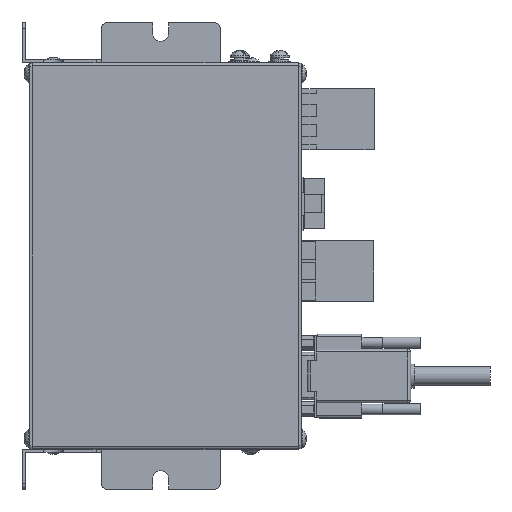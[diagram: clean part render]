
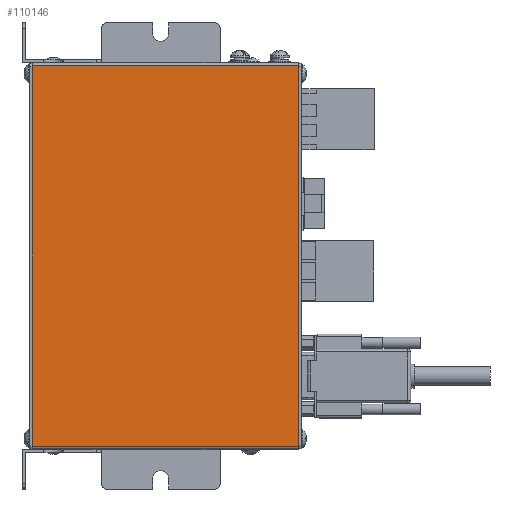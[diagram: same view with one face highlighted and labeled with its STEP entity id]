
A CAD part, front view. The second image highlights one B-rep face of the part: STEP entity #110146.
In plain terms, the highlighted planar face has unit normal (0, -1, 0).
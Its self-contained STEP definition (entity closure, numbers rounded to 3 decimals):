
#1446 = VERTEX_POINT ( 'NONE', #97954 ) ;
#5099 = DIRECTION ( 'NONE',  ( 0., 0., -1. ) ) ;
#7538 = CARTESIAN_POINT ( 'NONE',  ( 88.455, -11.935, 217.34 ) ) ;
#11568 = EDGE_CURVE ( 'NONE', #85147, #63072, #110992, .T. ) ;
#14114 = FACE_OUTER_BOUND ( 'NONE', #65745, .T. ) ;
#17249 = EDGE_CURVE ( 'NONE', #1446, #63072, #72528, .T. ) ;
#20785 = LINE ( 'NONE', #101069, #42700 ) ;
#21747 = CARTESIAN_POINT ( 'NONE',  ( 88.455, -11.935, 73.34 ) ) ;
#42700 = VECTOR ( 'NONE', #42830, 1000. ) ;
#42830 = DIRECTION ( 'NONE',  ( -1., 0., 0. ) ) ;
#45588 = VECTOR ( 'NONE', #80057, 1000. ) ;
#47177 = CARTESIAN_POINT ( 'NONE',  ( 88.455, -11.935, 73.34 ) ) ;
#57213 = PLANE ( 'NONE',  #74933 ) ;
#63072 = VERTEX_POINT ( 'NONE', #78800 ) ;
#63174 = VECTOR ( 'NONE', #120379, 1000. ) ;
#65745 = EDGE_LOOP ( 'NONE', ( #88834, #118188, #91871, #113707 ) ) ;
#67972 = VERTEX_POINT ( 'NONE', #109671 ) ;
#71089 = LINE ( 'NONE', #74326, #72586 ) ;
#72528 = LINE ( 'NONE', #87334, #63174 ) ;
#72586 = VECTOR ( 'NONE', #5099, 1000. ) ;
#74326 = CARTESIAN_POINT ( 'NONE',  ( 88.455, -11.935, 217.34 ) ) ;
#74933 = AXIS2_PLACEMENT_3D ( 'NONE', #7538, #77164, #87184 ) ;
#77164 = DIRECTION ( 'NONE',  ( 0., 1., 0. ) ) ;
#78800 = CARTESIAN_POINT ( 'NONE',  ( -11.545, -11.935, 73.34 ) ) ;
#80057 = DIRECTION ( 'NONE',  ( -1., 0., 0. ) ) ;
#85147 = VERTEX_POINT ( 'NONE', #47177 ) ;
#87184 = DIRECTION ( 'NONE',  ( 0., 0., 1. ) ) ;
#87334 = CARTESIAN_POINT ( 'NONE',  ( -11.545, -11.935, 217.34 ) ) ;
#88834 = ORIENTED_EDGE ( 'NONE', *, *, #105372, .F. ) ;
#91871 = ORIENTED_EDGE ( 'NONE', *, *, #17249, .T. ) ;
#97954 = CARTESIAN_POINT ( 'NONE',  ( -11.545, -11.935, 216.34 ) ) ;
#101069 = CARTESIAN_POINT ( 'NONE',  ( 88.455, -11.935, 216.34 ) ) ;
#105372 = EDGE_CURVE ( 'NONE', #67972, #85147, #71089, .T. ) ;
#109671 = CARTESIAN_POINT ( 'NONE',  ( 88.455, -11.935, 216.34 ) ) ;
#110146 = ADVANCED_FACE ( 'NONE', ( #14114 ), #57213, .F. ) ;
#110992 = LINE ( 'NONE', #21747, #45588 ) ;
#113707 = ORIENTED_EDGE ( 'NONE', *, *, #11568, .F. ) ;
#117593 = EDGE_CURVE ( 'NONE', #67972, #1446, #20785, .T. ) ;
#118188 = ORIENTED_EDGE ( 'NONE', *, *, #117593, .T. ) ;
#120379 = DIRECTION ( 'NONE',  ( 0., 0., -1. ) ) ;
